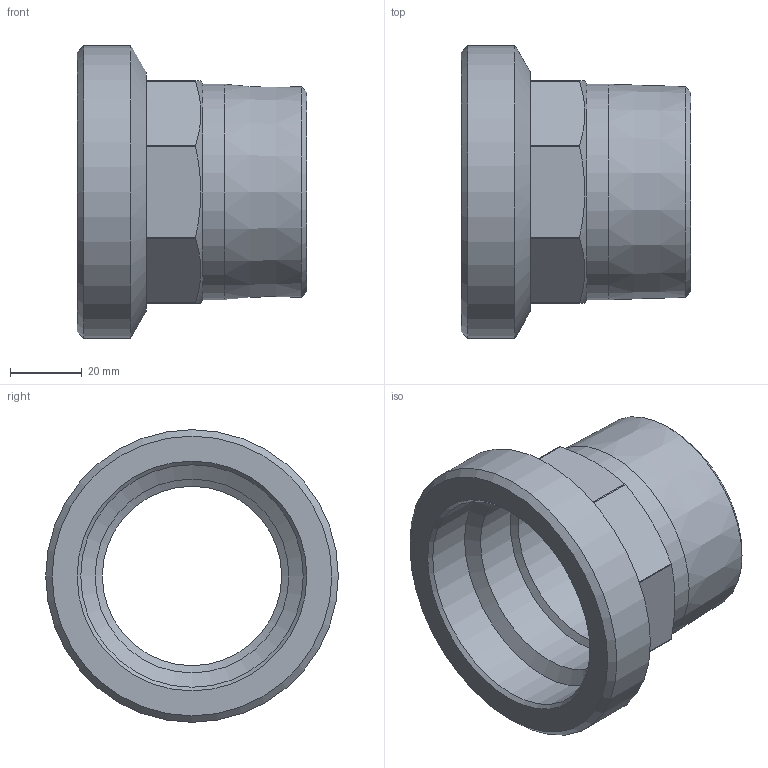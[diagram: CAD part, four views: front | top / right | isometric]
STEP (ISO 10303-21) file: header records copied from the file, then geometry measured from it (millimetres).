
FILE_DESCRIPTION((''),'2;1');
FILE_NAME('\\Lg50001\Groups\SANHA Legnica\Engineering\Public\Pajchrowski\projekty\8000 models\4376g\4376g STEP\14376_2-234(1).stp','2009-08-28T10:40:19',('pajchrowski'),(''),'Autodesk Inventor 2009','Autodesk Inventor 2009','');
FILE_SCHEMA(('AUTOMOTIVE_DESIGN { 1 0 10303 214 1 1 1 1 }'));
Length unit declared in the file: millimetre
Products named in the file (1): 14376_2-234(1)
Bounding box: 64 x 81.53 x 81.53 mm (x, y, z)
Volume: 80978.4 mm3; surface area: 28680.4 mm2
Topology: 1 solids, 1 shells, 40 faces, 87 edges, 49 vertices
Faces by surface type: plane 18, cylinder 13, cone 9
Full cylindrical faces by diameter (mm): 50 x1, 54 x1, 60.057 x1, 62 x1, 81.534 x1
Entity records: 1008 total; most frequent: DIRECTION 184, CARTESIAN_POINT 175, ORIENTED_EDGE 142, AXIS2_PLACEMENT_3D 80, EDGE_CURVE 71, EDGE_LOOP 56, VERTEX_POINT 47, FACE_OUTER_BOUND 40
